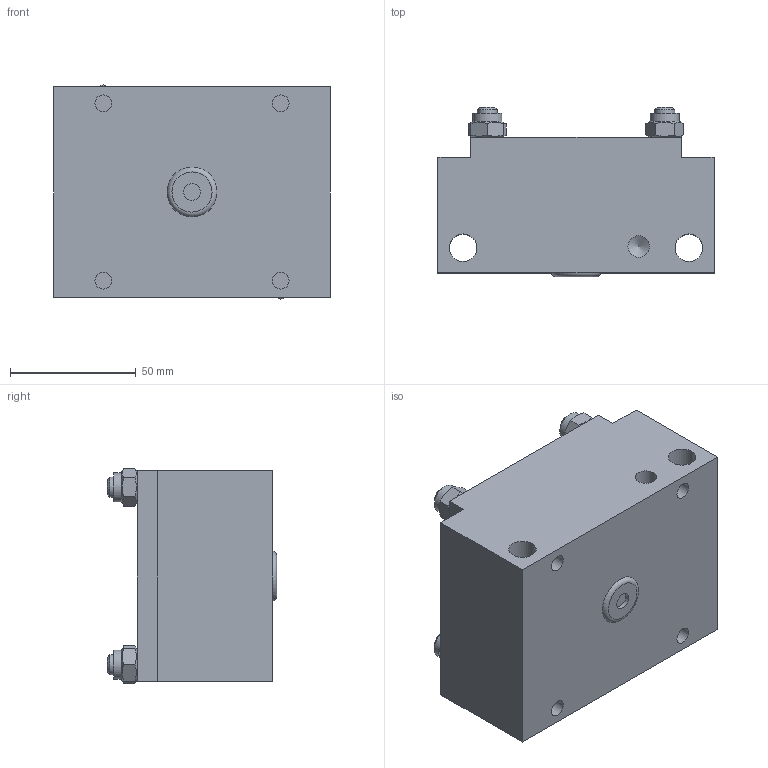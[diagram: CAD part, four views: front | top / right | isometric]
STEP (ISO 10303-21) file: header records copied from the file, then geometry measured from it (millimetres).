
FILE_DESCRIPTION((''),'2;1');
FILE_NAME('C:\VaultWork\Zeichnungen\Maßblätter\Multizylinder\M 75\M75-30\M01793-4-0 Maßblatt Multizylinder M75-1-20.stp','2013-06-19T16:41:34',('Sergeew'),(''),'Autodesk Inventor 2012','Autodesk Inventor 2012','');
FILE_SCHEMA(('AUTOMOTIVE_DESIGN { 1 0 10303 214 1 1 1 1 }'));
Length unit declared in the file: millimetre
Products named in the file (1): M01793-4-0 Maßblatt Multizylinder M75-1-20
Bounding box: 110 x 67.5 x 85.72 mm (x, y, z)
Volume: 462657.8 mm3; surface area: 52314.5 mm2
Topology: 1 solids, 1 shells, 104 faces, 235 edges, 156 vertices
Faces by surface type: plane 57, cylinder 25, cone 21, torus 1
Full cylindrical faces by diameter (mm): 6.647 x5, 8 x8, 8.566 x2, 9 x4, 11 x2, 11.6 x4
Entity records: 2541 total; most frequent: CARTESIAN_POINT 497, DIRECTION 394, ORIENTED_EDGE 328, EDGE_LOOP 178, AXIS2_PLACEMENT_3D 173, EDGE_CURVE 164, VERTEX_POINT 132, FACE_OUTER_BOUND 104
